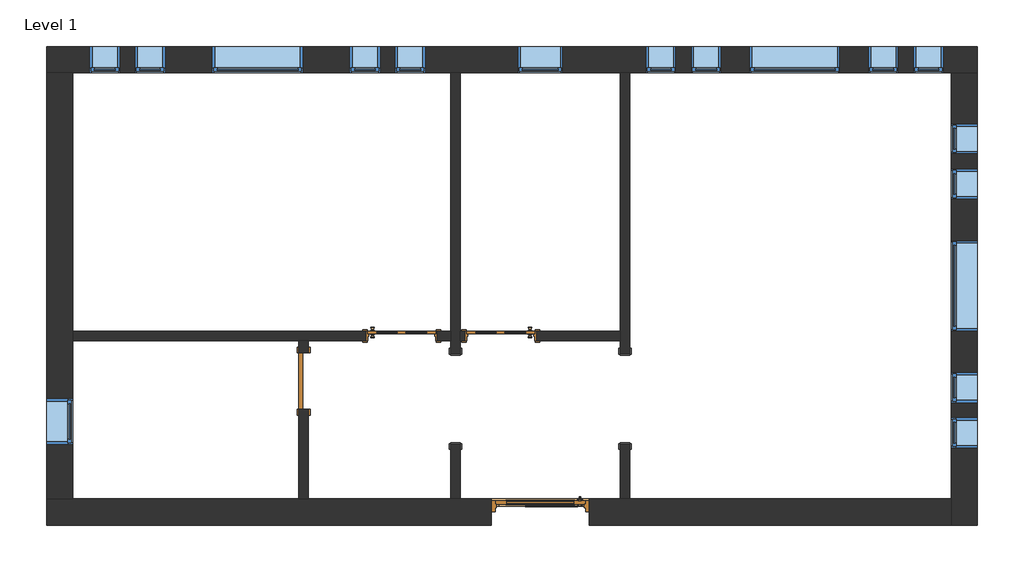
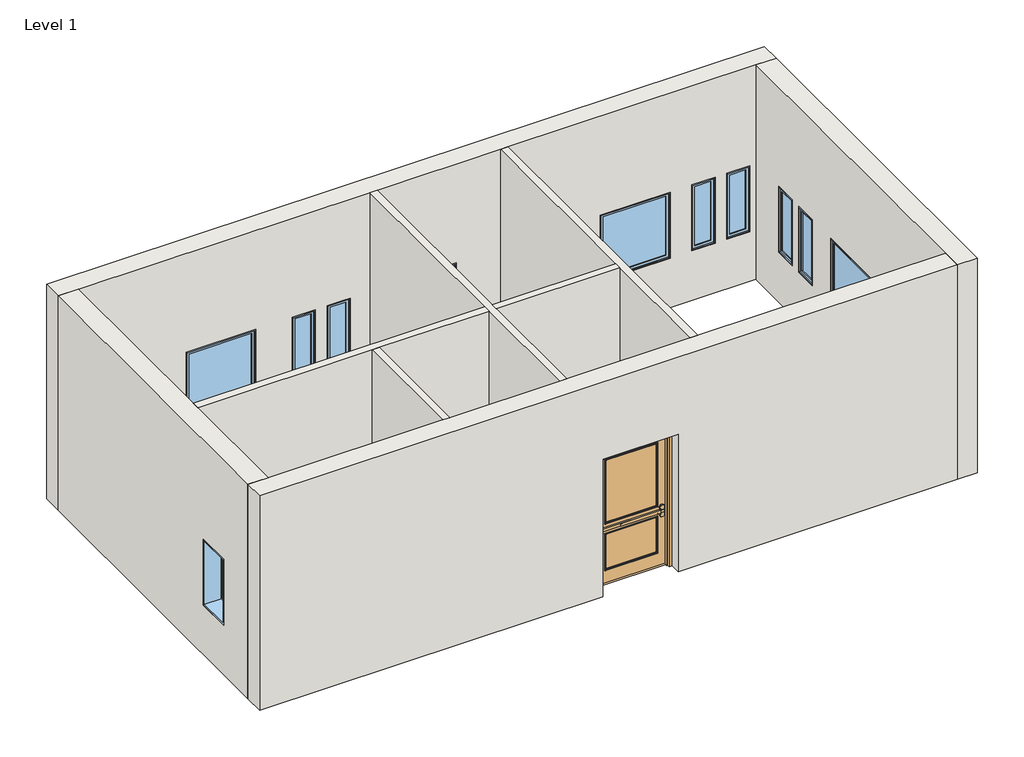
# One storey: 17 windows, 8 walls, 4 doors, 2 proxies.
"""IFC4 building model written with IfcOpenShell, lengths in millimetres."""

from ifc_helpers import new_model, si_unit, frame, origin, place, context, project, spatial, polyline, outline, extrude, faceted_brep, transform, mapped, element, save
from components import proxy_f44482cc, proxy_d58c73d0, door_734823c0, door_3a280f7b, door_48307b55, door_4d6c7550, window_da97879f, window_d61ef850, window_60baf983, window_6eb97611

model = new_model("IFC4")

# Units and contexts
model_context = context("Model", 3, world=origin())
ifc_project = project(units=[si_unit("LENGTHUNIT", "METRE", prefix="MILLI")], contexts=[model_context])

# Site, building, storey
site = spatial("IfcSite", under=ifc_project)
building = spatial("IfcBuilding", under=site)
storey = spatial("IfcBuildingStorey", under=building, Name="Level 1", Elevation=-914.4)

# Proxies
placement = place(None, origin())
proxy_shape = proxy_f44482cc(model_context)
element("IfcBuildingElementProxy", 1, Name="Passage Opening-Cased : 48\" x 84\"", ObjectType="Passage Opening-Cased : 48\" x 84\"", at=placement, inside=storey, context=model_context, shape_type="MappedRepresentation", body=[
    mapped(proxy_shape, transform((-8577.1844712, 3224.0452741, -914.4), x_axis=(0.0, 1.0, 0.0), y_axis=(-1.0, 0.0, 0.0), z_axis=(0.0, 0.0, 1.0))),
])
proxy_2_shape = proxy_d58c73d0(model_context)
element("IfcBuildingElementProxy", 2, Name="Passage Opening-Cased : 48\" x 84\"", ObjectType="Passage Opening-Cased : 48\" x 84\"", at=placement, inside=storey, context=model_context, shape_type="MappedRepresentation", body=[
    mapped(proxy_2_shape, transform((-10863.1844712, 3224.0452741, -914.4), x_axis=(0.0, 1.0, 0.0), y_axis=(-1.0, 0.0, 0.0), z_axis=(0.0, 0.0, 1.0))),
])

# Doors
door_shape = door_734823c0(model_context)
element("IfcDoor", 3, ObjectType="Door-Exterior-Single-Two_Lite : 48\" x 96\"", at=placement, inside=storey, context=model_context, shape_type="MappedRepresentation", body=[
    mapped(door_shape, transform((-9720.1844712, 1685.5066174, -914.4), x_axis=(-1.0, 0.0, 0.0), y_axis=(0.0, -1.0, 0.0), z_axis=(0.0, 0.0, 1.0))),
])
door_2_shape = door_3a280f7b(model_context)
element("IfcDoor", 4, ObjectType="Door-Interior-Single-4_Panel-Wood : 36\" x 84\"", at=placement, inside=storey, context=model_context, shape_type="MappedRepresentation", body=[
    mapped(door_2_shape, transform((-10253.5844712, 4068.3441174, -914.4), x_axis=(-1.0, 0.0, 0.0), y_axis=(0.0, -1.0, 0.0), z_axis=(0.0, 0.0, 1.0))),
])
door_3_shape = door_48307b55(model_context)
element("IfcDoor", 5, ObjectType="Door-Interior-Single-4_Panel-Wood : 36\" x 84\"", at=placement, inside=storey, context=model_context, shape_type="MappedRepresentation", body=[
    mapped(door_3_shape, transform((-11588.6719712, 4068.3441174, -914.4), x_axis=(1.0, 0.0, 0.0), y_axis=(0.0, 1.0, 0.0), z_axis=(0.0, 0.0, 1.0))),
])
door_4_shape = door_4d6c7550(model_context)
element("IfcDoor", 6, ObjectType="Single-Flush : 30\" x 84\"", at=placement, inside=storey, context=model_context, shape_type="MappedRepresentation", body=[
    mapped(door_4_shape, transform((-12909.4719712, 3455.5691174, -914.4), x_axis=(0.0, 1.0, 0.0), y_axis=(-1.0, 0.0, 0.0), z_axis=(0.0, 0.0, 1.0))),
])

# Walls
element("IfcWall", 7, ObjectType="Exterior - Brick on Mtl. Stud", at=placement, inside=storey, context=model_context, shape_type="Brep", body=[
    faceted_brep([(-16373.3969712, 7611.6441174, -914.4), (-16020.9719712, 7611.6441174, -914.4), (-10926.6844712, 7611.6441174, -914.4), (-10799.6844712, 7611.6441174, -914.4), (-8640.6844712, 7611.6441174, -914.4), (-8513.6844712, 7611.6441174, -914.4), (-4181.3969712, 7611.6441174, -914.4), (-3828.9719712, 7611.6441174, -914.4), (-3828.9719712, 7611.6441174, 3048.0), (-4181.3969712, 7611.6441174, 3048.0), (-8513.6844712, 7611.6441174, 3048.0), (-8640.6844712, 7611.6441174, 3048.0), (-10799.6844712, 7611.6441174, 3048.0), (-10926.6844712, 7611.6441174, 3048.0), (-16020.9719712, 7611.6441174, 3048.0), (-16373.3969712, 7611.6441174, 3048.0), (-10024.9844712, 7611.6441174, 1219.2), (-9415.3844712, 7611.6441174, 1219.2), (-9415.3844712, 7611.6441174, 0.0), (-10024.9844712, 7611.6441174, 0.0), (-14139.7844712, 7611.6441174, 1219.2), (-12920.5844712, 7611.6441174, 1219.2), (-12920.5844712, 7611.6441174, 0.0), (-14139.7844712, 7611.6441174, 0.0), (-6900.7844712, 7611.6441174, 1219.2), (-5681.5844712, 7611.6441174, 1219.2), (-5681.5844712, 7611.6441174, 0.0), (-6900.7844712, 7611.6441174, 0.0), (-15790.7844712, 7611.6441174, 1219.2), (-15384.3844712, 7611.6441174, 1219.2), (-15384.3844712, 7611.6441174, 0.0), (-15790.7844712, 7611.6441174, 0.0), (-15181.1844712, 7611.6441174, 1219.2), (-14774.7844712, 7611.6441174, 1219.2), (-14774.7844712, 7611.6441174, 0.0), (-15181.1844712, 7611.6441174, 0.0), (-11879.1844712, 7611.6441174, 1219.2), (-11879.1844712, 7611.6441174, 0.0), (-12285.5844712, 7611.6441174, 0.0), (-12285.5844712, 7611.6441174, 1219.2), (-11269.5844712, 7611.6441174, 1219.2), (-11269.5844712, 7611.6441174, 0.0), (-11675.9844712, 7611.6441174, 0.0), (-11675.9844712, 7611.6441174, 1219.2), (-7688.1844712, 7611.6441174, 1219.2), (-7281.7844712, 7611.6441174, 1219.2), (-7281.7844712, 7611.6441174, 0.0), (-7688.1844712, 7611.6441174, 0.0), (-8297.7844712, 7611.6441174, 1219.2), (-7891.3844712, 7611.6441174, 1219.2), (-7891.3844712, 7611.6441174, 0.0), (-8297.7844712, 7611.6441174, 0.0), (-4894.1844712, 7611.6441174, 1219.2), (-4894.1844712, 7611.6441174, 0.0), (-5300.5844712, 7611.6441174, 0.0), (-5300.5844712, 7611.6441174, 1219.2), (-4284.5844712, 7611.6441174, 1219.2), (-4284.5844712, 7611.6441174, 0.0), (-4690.9844712, 7611.6441174, 0.0), (-4690.9844712, 7611.6441174, 1219.2), (-16373.3969712, 7964.0691174, -914.4), (-16373.3969712, 7964.0691174, 3048.0), (-3828.9719712, 7964.0691174, 3048.0), (-3828.9719712, 7964.0691174, -914.4), (-10024.9844712, 7964.0691174, 1219.2), (-10024.9844712, 7964.0691174, 0.0), (-9415.3844712, 7964.0691174, 0.0), (-9415.3844712, 7964.0691174, 1219.2), (-14139.7844712, 7964.0691174, 1219.2), (-14139.7844712, 7964.0691174, 0.0), (-12920.5844712, 7964.0691174, 0.0), (-12920.5844712, 7964.0691174, 1219.2), (-6900.7844712, 7964.0691174, 1219.2), (-6900.7844712, 7964.0691174, 0.0), (-5681.5844712, 7964.0691174, 0.0), (-5681.5844712, 7964.0691174, 1219.2), (-15790.7844712, 7964.0691174, 1219.2), (-15790.7844712, 7964.0691174, 0.0), (-15384.3844712, 7964.0691174, 0.0), (-15384.3844712, 7964.0691174, 1219.2), (-15181.1844712, 7964.0691174, 1219.2), (-15181.1844712, 7964.0691174, 0.0), (-14774.7844712, 7964.0691174, 0.0), (-14774.7844712, 7964.0691174, 1219.2), (-11879.1844712, 7964.0691174, 1219.2), (-12285.5844712, 7964.0691174, 1219.2), (-12285.5844712, 7964.0691174, 0.0), (-11879.1844712, 7964.0691174, 0.0), (-11269.5844712, 7964.0691174, 1219.2), (-11675.9844712, 7964.0691174, 1219.2), (-11675.9844712, 7964.0691174, 0.0), (-11269.5844712, 7964.0691174, 0.0), (-7688.1844712, 7964.0691174, 1219.2), (-7688.1844712, 7964.0691174, 0.0), (-7281.7844712, 7964.0691174, 0.0), (-7281.7844712, 7964.0691174, 1219.2), (-8297.7844712, 7964.0691174, 1219.2), (-8297.7844712, 7964.0691174, 0.0), (-7891.3844712, 7964.0691174, 0.0), (-7891.3844712, 7964.0691174, 1219.2), (-4894.1844712, 7964.0691174, 1219.2), (-5300.5844712, 7964.0691174, 1219.2), (-5300.5844712, 7964.0691174, 0.0), (-4894.1844712, 7964.0691174, 0.0), (-4284.5844712, 7964.0691174, 1219.2), (-4690.9844712, 7964.0691174, 1219.2), (-4690.9844712, 7964.0691174, 0.0), (-4284.5844712, 7964.0691174, 0.0)], [[[0, 1, 2, 3, 4, 5, 6, 7, 8, 9, 10, 11, 12, 13, 14, 15], [16, 17, 18, 19], [20, 21, 22, 23], [24, 25, 26, 27], [28, 29, 30, 31], [32, 33, 34, 35], [36, 37, 38, 39], [40, 41, 42, 43], [44, 45, 46, 47], [48, 49, 50, 51], [52, 53, 54, 55], [56, 57, 58, 59]], [[60, 61, 62, 63], [64, 65, 66, 67], [68, 69, 70, 71], [72, 73, 74, 75], [76, 77, 78, 79], [80, 81, 82, 83], [84, 85, 86, 87], [88, 89, 90, 91], [92, 93, 94, 95], [96, 97, 98, 99], [100, 101, 102, 103], [104, 105, 106, 107]], [[7, 6, 5, 4, 3, 2, 1, 0, 60, 63]], [[15, 14, 13, 12, 11, 10, 9, 8, 62, 61]], [[8, 7, 63, 62]], [[0, 15, 61, 60]], [[65, 64, 16, 19]], [[66, 65, 19, 18]], [[67, 66, 18, 17]], [[64, 67, 17, 16]], [[69, 68, 20, 23]], [[70, 69, 23, 22]], [[71, 70, 22, 21]], [[68, 71, 21, 20]], [[73, 72, 24, 27]], [[74, 73, 27, 26]], [[75, 74, 26, 25]], [[72, 75, 25, 24]], [[77, 76, 28, 31]], [[78, 77, 31, 30]], [[79, 78, 30, 29]], [[76, 79, 29, 28]], [[81, 80, 32, 35]], [[82, 81, 35, 34]], [[83, 82, 34, 33]], [[80, 83, 33, 32]], [[37, 36, 84, 87]], [[38, 37, 87, 86]], [[39, 38, 86, 85]], [[36, 39, 85, 84]], [[41, 40, 88, 91]], [[42, 41, 91, 90]], [[43, 42, 90, 89]], [[40, 43, 89, 88]], [[93, 92, 44, 47]], [[94, 93, 47, 46]], [[95, 94, 46, 45]], [[92, 95, 45, 44]], [[97, 96, 48, 51]], [[98, 97, 51, 50]], [[99, 98, 50, 49]], [[96, 99, 49, 48]], [[53, 52, 100, 103]], [[54, 53, 103, 102]], [[55, 54, 102, 101]], [[52, 55, 101, 100]], [[57, 56, 104, 107]], [[58, 57, 107, 106]], [[59, 58, 106, 105]], [[56, 59, 105, 104]]]),
])
element("IfcWall", 8, ObjectType="Exterior - Brick on Mtl. Stud", at=placement, inside=storey, context=model_context, shape_type="Brep", body=[
    faceted_brep([(-4181.3969712, 7611.6441174, -914.4), (-4181.3969712, 1868.0691174, -914.4), (-4181.3969712, 1515.6441174, -914.4), (-4181.3969712, 1515.6441174, 3048.0), (-4181.3969712, 1868.0691174, 3048.0), (-4181.3969712, 7611.6441174, 3048.0), (-4181.3969712, 5349.4566174, 1219.2), (-4181.3969712, 4130.2566174, 1219.2), (-4181.3969712, 4130.2566174, 0.0), (-4181.3969712, 5349.4566174, 0.0), (-4181.3969712, 6314.6566174, 1219.2), (-4181.3969712, 5908.2566174, 1219.2), (-4181.3969712, 5908.2566174, 0.0), (-4181.3969712, 6314.6566174, 0.0), (-4181.3969712, 6924.2566174, 1219.2), (-4181.3969712, 6517.8566174, 1219.2), (-4181.3969712, 6517.8566174, 0.0), (-4181.3969712, 6924.2566174, 0.0), (-4181.3969712, 3165.0566174, 1219.2), (-4181.3969712, 3165.0566174, 0.0), (-4181.3969712, 3571.4566174, 0.0), (-4181.3969712, 3571.4566174, 1219.2), (-4181.3969712, 2555.4566174, 1219.2), (-4181.3969712, 2555.4566174, 0.0), (-4181.3969712, 2961.8566174, 0.0), (-4181.3969712, 2961.8566174, 1219.2), (-3828.9719712, 7611.6441174, -914.4), (-3828.9719712, 7611.6441174, 3048.0), (-3828.9719712, 1515.6441174, 3048.0), (-3828.9719712, 1515.6441174, -914.4), (-3828.9719712, 5349.4566174, 1219.2), (-3828.9719712, 5349.4566174, 0.0), (-3828.9719712, 4130.2566174, 0.0), (-3828.9719712, 4130.2566174, 1219.2), (-3828.9719712, 6314.6566174, 1219.2), (-3828.9719712, 6314.6566174, 0.0), (-3828.9719712, 5908.2566174, 0.0), (-3828.9719712, 5908.2566174, 1219.2), (-3828.9719712, 6924.2566174, 1219.2), (-3828.9719712, 6924.2566174, 0.0), (-3828.9719712, 6517.8566174, 0.0), (-3828.9719712, 6517.8566174, 1219.2), (-3828.9719712, 3165.0566174, 1219.2), (-3828.9719712, 3571.4566174, 1219.2), (-3828.9719712, 3571.4566174, 0.0), (-3828.9719712, 3165.0566174, 0.0), (-3828.9719712, 2555.4566174, 1219.2), (-3828.9719712, 2961.8566174, 1219.2), (-3828.9719712, 2961.8566174, 0.0), (-3828.9719712, 2555.4566174, 0.0)], [[[0, 1, 2, 3, 4, 5], [6, 7, 8, 9], [10, 11, 12, 13], [14, 15, 16, 17], [18, 19, 20, 21], [22, 23, 24, 25]], [[26, 27, 28, 29], [30, 31, 32, 33], [34, 35, 36, 37], [38, 39, 40, 41], [42, 43, 44, 45], [46, 47, 48, 49]], [[2, 1, 0, 26, 29]], [[5, 4, 3, 28, 27]], [[0, 5, 27, 26]], [[3, 2, 29, 28]], [[31, 30, 6, 9]], [[32, 31, 9, 8]], [[33, 32, 8, 7]], [[30, 33, 7, 6]], [[35, 34, 10, 13]], [[36, 35, 13, 12]], [[37, 36, 12, 11]], [[34, 37, 11, 10]], [[39, 38, 14, 17]], [[40, 39, 17, 16]], [[41, 40, 16, 15]], [[38, 41, 15, 14]], [[19, 18, 42, 45]], [[20, 19, 45, 44]], [[21, 20, 44, 43]], [[18, 21, 43, 42]], [[23, 22, 46, 49]], [[24, 23, 49, 48]], [[25, 24, 48, 47]], [[22, 25, 47, 46]]]),
])
element("IfcWall", 9, ObjectType="Exterior - Brick on Mtl. Stud", at=placement, inside=storey, context=model_context, shape_type="Brep", body=[
    faceted_brep([(-16373.3969712, 1868.0691174, 3048.0), (-16020.9719712, 1868.0691174, 3048.0), (-12972.9719712, 1868.0691174, 3048.0), (-12845.9719712, 1868.0691174, 3048.0), (-10926.6844712, 1868.0691174, 3048.0), (-10799.6844712, 1868.0691174, 3048.0), (-8640.6844712, 1868.0691174, 3048.0), (-8513.6844712, 1868.0691174, 3048.0), (-4181.3969712, 1868.0691174, 3048.0), (-4181.3969712, 1868.0691174, -914.4), (-8513.6844712, 1868.0691174, -914.4), (-8640.6844712, 1868.0691174, -914.4), (-9059.7844712, 1868.0691174, -914.4), (-9059.7844712, 1868.0691174, 1625.6), (-10380.5844712, 1868.0691174, 1625.6), (-10380.5844712, 1868.0691174, -914.4), (-10799.6844712, 1868.0691174, -914.4), (-10926.6844712, 1868.0691174, -914.4), (-12845.9719712, 1868.0691174, -914.4), (-12972.9719712, 1868.0691174, -914.4), (-16020.9719712, 1868.0691174, -914.4), (-16373.3969712, 1868.0691174, -914.4), (-4181.3969712, 1515.6441174, 3048.0), (-16373.3969712, 1515.6441174, 3048.0), (-16373.3969712, 1515.6441174, -914.4), (-10380.5844712, 1515.6441174, -914.4), (-10380.5844712, 1515.6441174, 1625.6), (-9059.7844712, 1515.6441174, 1625.6), (-9059.7844712, 1515.6441174, -914.4), (-4181.3969712, 1515.6441174, -914.4)], [[[0, 1, 2, 3, 4, 5, 6, 7, 8, 9, 10, 11, 12, 13, 14, 15, 16, 17, 18, 19, 20, 21]], [[22, 23, 24, 25, 26, 27, 28, 29]], [[9, 29, 28, 12, 11, 10]], [[24, 21, 20, 19, 18, 17, 16, 15, 25]], [[8, 7, 6, 5, 4, 3, 2, 1, 0, 23, 22]], [[9, 8, 22, 29]], [[0, 21, 24, 23]], [[14, 26, 25, 15]], [[26, 14, 13, 27]], [[27, 13, 12, 28]]]),
])
element("IfcWall", 10, ObjectType="Exterior - Brick on Mtl. Stud", at=placement, inside=storey, context=model_context, shape_type="Brep", body=[
    faceted_brep([(-16020.9719712, 1868.0691174, -914.4), (-16020.9719712, 4001.6691174, -914.4), (-16020.9719712, 4128.6691174, -914.4), (-16020.9719712, 7611.6441174, -914.4), (-16020.9719712, 7611.6441174, 3048.0), (-16020.9719712, 4128.6691174, 3048.0), (-16020.9719712, 4001.6691174, 3048.0), (-16020.9719712, 1868.0691174, 3048.0), (-16020.9719712, 2606.2566174, 1219.2), (-16020.9719712, 3215.8566174, 1219.2), (-16020.9719712, 3215.8566174, 0.0), (-16020.9719712, 2606.2566174, 0.0), (-16373.3969712, 1868.0691174, -914.4), (-16373.3969712, 1868.0691174, 3048.0), (-16373.3969712, 7611.6441174, 3048.0), (-16373.3969712, 7611.6441174, -914.4), (-16373.3969712, 2606.2566174, 1219.2), (-16373.3969712, 2606.2566174, 0.0), (-16373.3969712, 3215.8566174, 0.0), (-16373.3969712, 3215.8566174, 1219.2)], [[[0, 1, 2, 3, 4, 5, 6, 7], [8, 9, 10, 11]], [[12, 13, 14, 15], [16, 17, 18, 19]], [[3, 2, 1, 0, 12, 15]], [[7, 6, 5, 4, 14, 13]], [[0, 7, 13, 12]], [[4, 3, 15, 14]], [[17, 16, 8, 11]], [[18, 17, 11, 10]], [[19, 18, 10, 9]], [[16, 19, 9, 8]]]),
])
element("IfcWall", 11, ObjectType="Interior - 5\" Partition (2-hr)", at=placement, inside=storey, context=model_context, shape_type="Brep", body=[
    faceted_brep([(-8640.6844712, 7611.6441174, -914.4), (-8640.6844712, 4128.6691174, -914.4), (-8640.6844712, 4001.6691174, -914.4), (-8640.6844712, 3825.4566174, -914.4), (-8640.6844712, 3825.4566174, 1219.2), (-8640.6844712, 2606.2566174, 1219.2), (-8640.6844712, 2606.2566174, -914.4), (-8640.6844712, 1868.0691174, -914.4), (-8640.6844712, 1868.0691174, 3048.0), (-8640.6844712, 4001.6691174, 3048.0), (-8640.6844712, 4128.6691174, 3048.0), (-8640.6844712, 7611.6441174, 3048.0), (-8513.6844712, 3825.4566174, 1219.2), (-8513.6844712, 3825.4566174, -914.4), (-8513.6844712, 7611.6441174, -914.4), (-8513.6844712, 7611.6441174, 3048.0), (-8513.6844712, 1868.0691174, 3048.0), (-8513.6844712, 1868.0691174, -914.4), (-8513.6844712, 2606.2566174, -914.4), (-8513.6844712, 2606.2566174, 1219.2)], [[[0, 1, 2, 3, 4, 5, 6, 7, 8, 9, 10, 11]], [[12, 13, 14, 15, 16, 17, 18, 19]], [[18, 17, 7, 6]], [[14, 13, 3, 2, 1, 0]], [[11, 10, 9, 8, 16, 15]], [[0, 11, 15, 14]], [[8, 7, 17, 16]], [[6, 5, 19, 18]], [[4, 3, 13, 12]], [[5, 4, 12, 19]]]),
])
element("IfcWall", 12, ObjectType="Interior - 5\" Partition (2-hr)", at=placement, inside=storey, context=model_context, shape_type="Brep", body=[
    faceted_brep([(-10926.6844712, 7611.6441174, -914.4), (-10926.6844712, 4128.6691174, -914.4), (-10926.6844712, 4001.6691174, -914.4), (-10926.6844712, 3825.4566174, -914.4), (-10926.6844712, 3825.4566174, 1219.2), (-10926.6844712, 2606.2566174, 1219.2), (-10926.6844712, 2606.2566174, -914.4), (-10926.6844712, 1868.0691174, -914.4), (-10926.6844712, 1868.0691174, 3048.0), (-10926.6844712, 4001.6691174, 3048.0), (-10926.6844712, 4128.6691174, 3048.0), (-10926.6844712, 7611.6441174, 3048.0), (-10799.6844712, 3825.4566174, 1219.2), (-10799.6844712, 3825.4566174, -914.4), (-10799.6844712, 4001.6691174, -914.4), (-10799.6844712, 4128.6691174, -914.4), (-10799.6844712, 7611.6441174, -914.4), (-10799.6844712, 7611.6441174, 3048.0), (-10799.6844712, 4128.6691174, 3048.0), (-10799.6844712, 4001.6691174, 3048.0), (-10799.6844712, 1868.0691174, 3048.0), (-10799.6844712, 1868.0691174, -914.4), (-10799.6844712, 2606.2566174, -914.4), (-10799.6844712, 2606.2566174, 1219.2)], [[[0, 1, 2, 3, 4, 5, 6, 7, 8, 9, 10, 11]], [[12, 13, 14, 15, 16, 17, 18, 19, 20, 21, 22, 23]], [[22, 21, 7, 6]], [[16, 15, 14, 13, 3, 2, 1, 0]], [[11, 10, 9, 8, 20, 19, 18, 17]], [[0, 11, 17, 16]], [[8, 7, 21, 20]], [[6, 5, 23, 22]], [[4, 3, 13, 12]], [[5, 4, 12, 23]]]),
])
element("IfcWall", 13, ObjectType="Interior - 5\" Partition (2-hr)", at=placement, inside=storey, context=model_context, shape_type="Brep", body=[
    faceted_brep([(-16020.9719712, 4001.6691174, 3048.0), (-16020.9719712, 4001.6691174, -914.4), (-12972.9719712, 4001.6691174, -914.4), (-12845.9719712, 4001.6691174, -914.4), (-12071.2719712, 4001.6691174, -914.4), (-12071.2719712, 4001.6691174, 1244.6), (-11106.0719712, 4001.6691174, 1244.6), (-11106.0719712, 4001.6691174, -914.4), (-10926.6844712, 4001.6691174, -914.4), (-10926.6844712, 4001.6691174, 3048.0), (-12845.9719712, 4001.6691174, 3048.0), (-12972.9719712, 4001.6691174, 3048.0), (-16020.9719712, 4128.6691174, -914.4), (-16020.9719712, 4128.6691174, 3048.0), (-10926.6844712, 4128.6691174, 3048.0), (-10926.6844712, 4128.6691174, -914.4), (-11106.0719712, 4128.6691174, -914.4), (-11106.0719712, 4128.6691174, 1244.6), (-12071.2719712, 4128.6691174, 1244.6), (-12071.2719712, 4128.6691174, -914.4)], [[[0, 1, 2, 3, 4, 5, 6, 7, 8, 9, 10, 11]], [[12, 13, 14, 15, 16, 17, 18, 19]], [[1, 12, 19, 4, 3, 2]], [[7, 16, 15, 8]], [[13, 0, 11, 10, 9, 14]], [[1, 0, 13, 12]], [[9, 8, 15, 14]], [[6, 17, 16, 7]], [[17, 6, 5, 18]], [[18, 5, 4, 19]]]),
    faceted_brep([(-8640.6844712, 4001.6691174, -914.4), (-8640.6844712, 4001.6691174, 3048.0), (-10799.6844712, 4001.6691174, 3048.0), (-10799.6844712, 4001.6691174, -914.4), (-10736.1844712, 4001.6691174, -914.4), (-10736.1844712, 4001.6691174, 1244.6), (-9770.9844712, 4001.6691174, 1244.6), (-9770.9844712, 4001.6691174, -914.4), (-8640.6844712, 4128.6691174, 3048.0), (-8640.6844712, 4128.6691174, -914.4), (-9770.9844712, 4128.6691174, -914.4), (-9770.9844712, 4128.6691174, 1244.6), (-10736.1844712, 4128.6691174, 1244.6), (-10736.1844712, 4128.6691174, -914.4), (-10799.6844712, 4128.6691174, -914.4), (-10799.6844712, 4128.6691174, 3048.0)], [[[0, 1, 2, 3, 4, 5, 6, 7]], [[8, 9, 10, 11, 12, 13, 14, 15]], [[9, 0, 7, 10]], [[13, 4, 3, 14]], [[1, 8, 15, 2]], [[1, 0, 9, 8]], [[3, 2, 15, 14]], [[5, 4, 13, 12]], [[6, 5, 12, 11]], [[7, 6, 11, 10]]]),
])
element("IfcWall", 14, ObjectType="Interior - 5\" Partition (2-hr)", at=placement, inside=storey, context=model_context, shape_type="SweptSolid", body=[
    extrude(outline(polyline([(4001.6691174, -914.4), (3836.5691174, -914.4), (3836.5691174, 1219.2), (3074.5691174, 1219.2), (3074.5691174, -914.4), (1868.0691174, -914.4), (1868.0691174, 3048.0), (4001.6691174, 3048.0), (4001.6691174, -914.4)])), frame((-12972.9719712, 0.0, 0.0), z_axis=(1.0, 0.0, 0.0), x_axis=(0.0, 1.0, 0.0)), (0.0, 0.0, 1.0), 127.0),
])

# Windows
window_shape = window_da97879f(model_context)
element("IfcWindow", 15, ObjectType="Fixed : 16\" x 48\"", at=placement, inside=storey, context=model_context, shape_type="MappedRepresentation", body=[
    mapped(window_shape, transform((-15625.6844712, 7787.8566174, -914.4), x_axis=(-1.0, 0.0, 0.0), y_axis=(0.0, -1.0, 0.0), z_axis=(0.0, 0.0, 1.0))),
])
element("IfcWindow", 16, ObjectType="Fixed : 16\" x 48\"", at=placement, inside=storey, context=model_context, shape_type="MappedRepresentation", body=[
    mapped(window_shape, transform((-15016.0844712, 7787.8566174, -914.4), x_axis=(-1.0, 0.0, 0.0), y_axis=(0.0, -1.0, 0.0), z_axis=(0.0, 0.0, 1.0))),
])
element("IfcWindow", 17, ObjectType="Fixed : 16\" x 48\"", at=placement, inside=storey, context=model_context, shape_type="MappedRepresentation", body=[
    mapped(window_shape, transform((-8132.6844712, 7787.8566174, -914.4), x_axis=(-1.0, 0.0, 0.0), y_axis=(0.0, -1.0, 0.0), z_axis=(0.0, 0.0, 1.0))),
])
element("IfcWindow", 18, ObjectType="Fixed : 16\" x 48\"", at=placement, inside=storey, context=model_context, shape_type="MappedRepresentation", body=[
    mapped(window_shape, transform((-7523.0844712, 7787.8566174, -914.4), x_axis=(-1.0, 0.0, 0.0), y_axis=(0.0, -1.0, 0.0), z_axis=(0.0, 0.0, 1.0))),
])
element("IfcWindow", 19, ObjectType="Fixed : 16\" x 48\"", at=placement, inside=storey, context=model_context, shape_type="MappedRepresentation", body=[
    mapped(window_shape, transform((-4005.1844712, 6759.1566174, -914.4), x_axis=(0.0, 1.0, 0.0), y_axis=(-1.0, 0.0, 0.0), z_axis=(0.0, 0.0, 1.0))),
])
element("IfcWindow", 20, ObjectType="Fixed : 16\" x 48\"", at=placement, inside=storey, context=model_context, shape_type="MappedRepresentation", body=[
    mapped(window_shape, transform((-4005.1844712, 6149.5566174, -914.4), x_axis=(0.0, 1.0, 0.0), y_axis=(-1.0, 0.0, 0.0), z_axis=(0.0, 0.0, 1.0))),
])
window_2_shape = window_d61ef850(model_context)
element("IfcWindow", 21, ObjectType="Fixed : 16\" x 48\"", at=placement, inside=storey, context=model_context, shape_type="MappedRepresentation", body=[
    mapped(window_2_shape, transform((-11434.6844712, 7787.8566174, -914.4), x_axis=(1.0, 0.0, 0.0), y_axis=(0.0, 1.0, 0.0), z_axis=(0.0, 0.0, 1.0))),
])
element("IfcWindow", 22, ObjectType="Fixed : 16\" x 48\"", at=placement, inside=storey, context=model_context, shape_type="MappedRepresentation", body=[
    mapped(window_2_shape, transform((-12044.2844712, 7787.8566174, -914.4), x_axis=(1.0, 0.0, 0.0), y_axis=(0.0, 1.0, 0.0), z_axis=(0.0, 0.0, 1.0))),
])
element("IfcWindow", 23, ObjectType="Fixed : 16\" x 48\"", at=placement, inside=storey, context=model_context, shape_type="MappedRepresentation", body=[
    mapped(window_2_shape, transform((-4449.6844712, 7787.8566174, -914.4), x_axis=(1.0, 0.0, 0.0), y_axis=(0.0, 1.0, 0.0), z_axis=(0.0, 0.0, 1.0))),
])
element("IfcWindow", 24, ObjectType="Fixed : 16\" x 48\"", at=placement, inside=storey, context=model_context, shape_type="MappedRepresentation", body=[
    mapped(window_2_shape, transform((-5059.2844712, 7787.8566174, -914.4), x_axis=(1.0, 0.0, 0.0), y_axis=(0.0, 1.0, 0.0), z_axis=(0.0, 0.0, 1.0))),
])
element("IfcWindow", 25, ObjectType="Fixed : 16\" x 48\"", at=placement, inside=storey, context=model_context, shape_type="MappedRepresentation", body=[
    mapped(window_2_shape, transform((-4005.1844712, 2720.5566174, -914.4), x_axis=(0.0, -1.0, 0.0), y_axis=(1.0, 0.0, 0.0), z_axis=(0.0, 0.0, 1.0))),
])
element("IfcWindow", 26, ObjectType="Fixed : 16\" x 48\"", at=placement, inside=storey, context=model_context, shape_type="MappedRepresentation", body=[
    mapped(window_2_shape, transform((-4005.1844712, 3330.1566174, -914.4), x_axis=(0.0, -1.0, 0.0), y_axis=(1.0, 0.0, 0.0), z_axis=(0.0, 0.0, 1.0))),
])
window_3_shape = window_60baf983(model_context)
element("IfcWindow", 27, ObjectType="Fixed : 24\" x 48\"", at=placement, inside=storey, context=model_context, shape_type="MappedRepresentation", body=[
    mapped(window_3_shape, transform((-9758.2844712, 7787.8566174, -914.4), x_axis=(-1.0, 0.0, 0.0), y_axis=(0.0, -1.0, 0.0), z_axis=(0.0, 0.0, 1.0))),
])
element("IfcWindow", 28, ObjectType="Fixed : 24\" x 48\"", at=placement, inside=storey, context=model_context, shape_type="MappedRepresentation", body=[
    mapped(window_3_shape, transform((-16197.1844712, 2872.9566174, -914.4), x_axis=(0.0, -1.0, 0.0), y_axis=(1.0, 0.0, 0.0), z_axis=(0.0, 0.0, 1.0))),
])
window_4_shape = window_6eb97611(model_context)
element("IfcWindow", 29, ObjectType="Fixed : 48\" x 48\"", at=placement, inside=storey, context=model_context, shape_type="MappedRepresentation", body=[
    mapped(window_4_shape, transform((-13568.2844712, 7787.8566174, -914.4), x_axis=(-1.0, 0.0, 0.0), y_axis=(0.0, -1.0, 0.0), z_axis=(0.0, 0.0, 1.0))),
])
element("IfcWindow", 30, ObjectType="Fixed : 48\" x 48\"", at=placement, inside=storey, context=model_context, shape_type="MappedRepresentation", body=[
    mapped(window_4_shape, transform((-6329.2844712, 7787.8566174, -914.4), x_axis=(-1.0, 0.0, 0.0), y_axis=(0.0, -1.0, 0.0), z_axis=(0.0, 0.0, 1.0))),
])
element("IfcWindow", 31, ObjectType="Fixed : 48\" x 48\"", at=placement, inside=storey, context=model_context, shape_type="MappedRepresentation", body=[
    mapped(window_4_shape, transform((-4005.1844712, 4777.9566174, -914.4), x_axis=(0.0, 1.0, 0.0), y_axis=(-1.0, 0.0, 0.0), z_axis=(0.0, 0.0, 1.0))),
])

save(model, "model.ifc")
